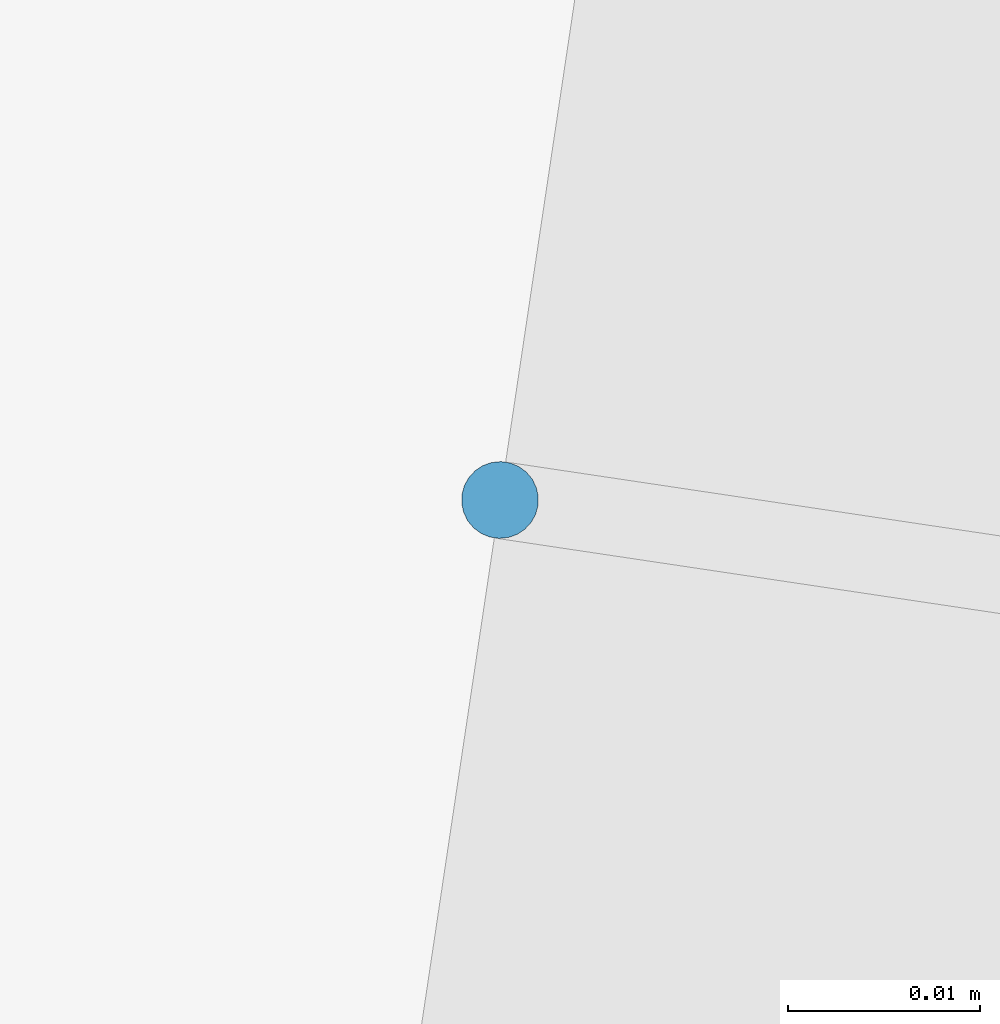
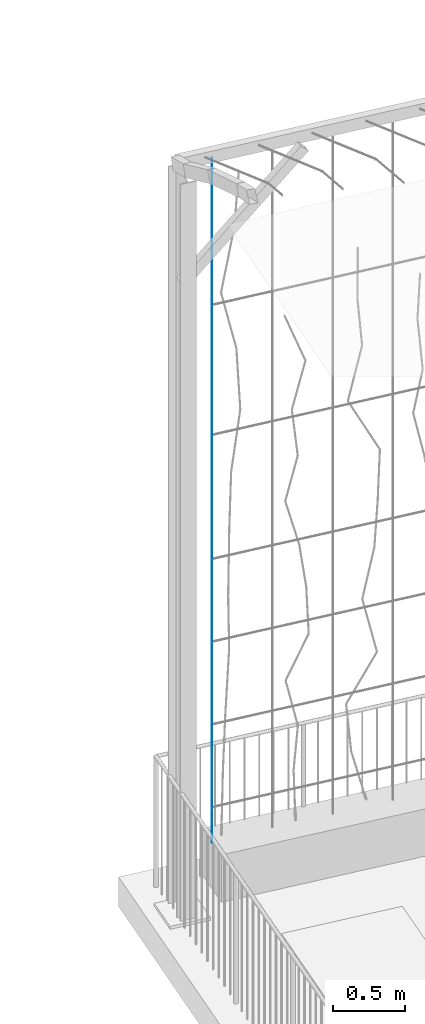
# One storey, part 30 of 142: 1 member, 1 element without a shape of its own.
"""IFC4 building model written with IfcOpenShell, lengths in metres."""

from ifc_helpers import new_model, si_unit, direction, frame, origin_with_axes, place, context, subcontext, project, spatial, circle, extrude, material, material_profile, profile_set, profile_usage, type_object, element, aggregate, save


model = new_model("IFC4")

# Units and contexts
model_context = context("Model", 3, precision=1e-05, world=origin_with_axes(), true_north=direction((0.0, 1.0)))
body_context = subcontext(model_context, "Body", "Model", "MODEL_VIEW")
ifc_project = project(units=[si_unit("AREAUNIT", "SQUARE_METRE"), si_unit("VOLUMEUNIT", "CUBIC_METRE"), si_unit("LENGTHUNIT", "METRE")], contexts=[model_context])

# Site, building, storey
site_placement = place(None, origin_with_axes())
site = spatial("IfcSite", under=ifc_project, at=site_placement, Name="Lares · Rua das Mercês · artigo 4771")
building_placement = place(site_placement, frame((15.0, 9.7, 14.65), z_axis=(0.0, 0.0, 1.0), x_axis=(0.989015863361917, -0.147809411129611, 0.0)))
building = spatial("IfcBuilding", under=site, at=building_placement, Name="Casa Sobreposta")
storey_placement = place(building_placement, origin_with_axes())
storey = spatial("IfcBuildingStorey", under=building, at=storey_placement, Name="00 · Habitação e estacionamento", Elevation=14.65)

# Assembly, member
assembly_placement = place(storey_placement, origin_with_axes())
assembly = element("IfcElementAssembly", 1, at=assembly_placement, inside=storey, Name="Fachada sul e pátio · estrutura e trepadeiras", ObjectType="LIVING_SHADE_TRELLIS", PredefinedType="USERDEFINED")
ifc_material = material(Name="Aço galvanizado / Stahl verzinkt", Category="steel")
ifc_material_profile = material_profile(ifc_material, circle(Radius=0.002))
ifc_profile_set = profile_set([ifc_material_profile], Name="D0.004")
ifc_profile_usage = profile_usage(ifc_profile_set)
member_type = type_object("IfcMemberType", Name="D0.004 / galvanized", PredefinedType="NOTDEFINED", material=ifc_profile_set)
member_placement = place(assembly_placement, frame((-5.7, 6.48, 0.35), z_axis=(0.0, 0.0, 1.0), x_axis=(1.0, 0.0, 0.0)))
member = element("IfcMember", 2, at=member_placement, type_object=member_type, material=ifc_profile_usage, Name="Trepadeiras · fio vertical", context=body_context, shape_type="SweptSolid", body=[
    extrude(circle(Radius=0.002), origin_with_axes(), (0.0, 0.0, 1.0), 5.8),
])
aggregate(assembly, [member])

save(model, "model.ifc")
